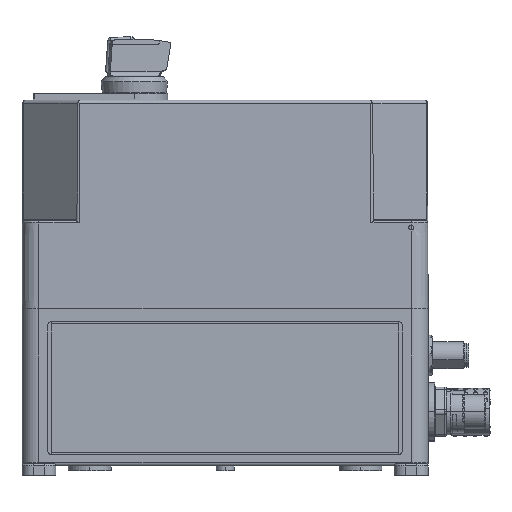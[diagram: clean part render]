
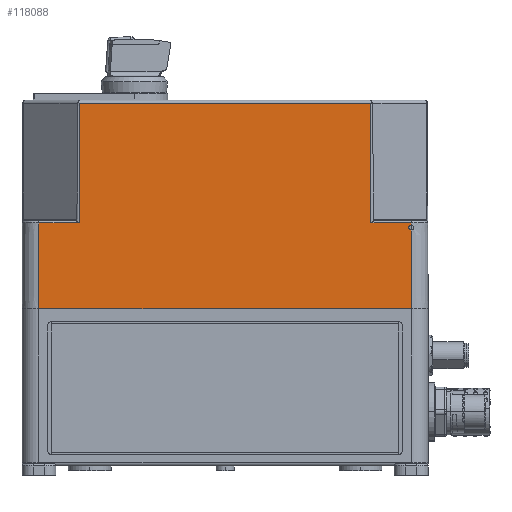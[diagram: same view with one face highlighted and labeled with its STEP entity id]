
A CAD part, left-side view. The second image highlights one B-rep face of the part: STEP entity #118088.
In plain terms, the highlighted planar face has unit normal (-1, 0, 0.004).
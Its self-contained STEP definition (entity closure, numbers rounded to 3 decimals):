
#3092 = ORIENTED_EDGE ( 'NONE', *, *, #35563, .T. ) ;
#6492 = CARTESIAN_POINT ( 'NONE',  ( -54.87, -82.5, 37.1 ) ) ;
#6633 = EDGE_CURVE ( 'NONE', #142684, #98187, #108331, .T. ) ;
#7681 = EDGE_LOOP ( 'NONE', ( #38494, #61272, #3092, #60594, #129747, #141421, #8235, #140771, #134570, #111972 ) ) ;
#8235 = ORIENTED_EDGE ( 'NONE', *, *, #79306, .F. ) ;
#9811 = DIRECTION ( 'NONE',  ( 0., 1., 0. ) ) ;
#10606 = DIRECTION ( 'NONE',  ( -0.003, 0., -1. ) ) ;
#11677 = CARTESIAN_POINT ( 'NONE',  ( -54.87, -80.3, 37.1 ) ) ;
#12407 = CARTESIAN_POINT ( 'NONE',  ( -54.87, -82.5, 37.1 ) ) ;
#15712 = VERTEX_POINT ( 'NONE', #54192 ) ;
#16085 = LINE ( 'NONE', #74334, #82226 ) ;
#16648 = CARTESIAN_POINT ( 'NONE',  ( -55., -82.5, 0. ) ) ;
#16997 = VECTOR ( 'NONE', #38726, 1000. ) ;
#17526 = CARTESIAN_POINT ( 'NONE',  ( -55., 55., 0. ) ) ;
#20076 = VECTOR ( 'NONE', #115028, 1000. ) ;
#22350 = VERTEX_POINT ( 'NONE', #130389 ) ;
#27229 = CARTESIAN_POINT ( 'NONE',  ( -55., 82.5, 0. ) ) ;
#28126 =( BOUNDED_CURVE ( )  B_SPLINE_CURVE ( 3, ( #59530, #37384, #11677, #12407 ),
 .UNSPECIFIED., .F., .F. ) 
 B_SPLINE_CURVE_WITH_KNOTS ( ( 4, 4 ),
 ( 0., 3.142 ),
 .UNSPECIFIED. ) 
 CURVE ( )  GEOMETRIC_REPRESENTATION_ITEM ( )  RATIONAL_B_SPLINE_CURVE ( ( 1., 0.333, 0.333, 1. ) ) 
 REPRESENTATION_ITEM ( '' )  );
#29330 = DIRECTION ( 'NONE',  ( 0.003, 0., 1. ) ) ;
#29916 = VERTEX_POINT ( 'NONE', #6492 ) ;
#30702 = VERTEX_POINT ( 'NONE', #95544 ) ;
#35421 = VECTOR ( 'NONE', #52842, 1000. ) ;
#35563 = EDGE_CURVE ( 'NONE', #68759, #29916, #28126, .T. ) ;
#36346 = DIRECTION ( 'NONE',  ( 0.003, 0., 1. ) ) ;
#37384 = CARTESIAN_POINT ( 'NONE',  ( -54.878, -80.3, 34.9 ) ) ;
#38494 = ORIENTED_EDGE ( 'NONE', *, *, #6633, .T. ) ;
#38726 = DIRECTION ( 'NONE',  ( 0.003, 0., 1. ) ) ;
#45560 = VERTEX_POINT ( 'NONE', #98057 ) ;
#47487 = EDGE_CURVE ( 'NONE', #30702, #141433, #113288, .T. ) ;
#49305 = VECTOR ( 'NONE', #36346, 1000. ) ;
#49806 = CARTESIAN_POINT ( 'NONE',  ( -54.682, 150., 91.005 ) ) ;
#51310 = FACE_OUTER_BOUND ( 'NONE', #7681, .T. ) ;
#52842 = DIRECTION ( 'NONE',  ( 0., -1., 0. ) ) ;
#54192 = CARTESIAN_POINT ( 'NONE',  ( -54.682, 64.677, 91.005 ) ) ;
#59530 = CARTESIAN_POINT ( 'NONE',  ( -54.878, -82.5, 34.9 ) ) ;
#60594 = ORIENTED_EDGE ( 'NONE', *, *, #92926, .T. ) ;
#61120 = LINE ( 'NONE', #27229, #92122 ) ;
#61272 = ORIENTED_EDGE ( 'NONE', *, *, #127488, .T. ) ;
#65341 = DIRECTION ( 'NONE',  ( 0.003, 0., 1. ) ) ;
#66676 = LINE ( 'NONE', #77031, #74254 ) ;
#66696 = EDGE_CURVE ( 'NONE', #45560, #94378, #127677, .T. ) ;
#68759 = VERTEX_POINT ( 'NONE', #117231 ) ;
#71333 = CARTESIAN_POINT ( 'NONE',  ( -54.867, 55., 38.003 ) ) ;
#72215 = DIRECTION ( 'NONE',  ( -0.003, 0., -1. ) ) ;
#74254 = VECTOR ( 'NONE', #10606, 1000. ) ;
#74334 = CARTESIAN_POINT ( 'NONE',  ( -55., -82.5, 0. ) ) ;
#75519 = CARTESIAN_POINT ( 'NONE',  ( -54.867, 55., 38.003 ) ) ;
#77031 = CARTESIAN_POINT ( 'NONE',  ( -55., 64.677, 0. ) ) ;
#79306 = EDGE_CURVE ( 'NONE', #15712, #141433, #142398, .T. ) ;
#79501 = CARTESIAN_POINT ( 'NONE',  ( -54.682, -64.677, 91.005 ) ) ;
#82226 = VECTOR ( 'NONE', #29330, 1000. ) ;
#92122 = VECTOR ( 'NONE', #72215, 1000. ) ;
#92926 = EDGE_CURVE ( 'NONE', #29916, #22350, #93504, .T. ) ;
#93283 = CARTESIAN_POINT ( 'NONE',  ( -55., 82.5, 0. ) ) ;
#93504 = LINE ( 'NONE', #16648, #16997 ) ;
#93603 = PLANE ( 'NONE',  #108953 ) ;
#94285 = CARTESIAN_POINT ( 'NONE',  ( -55., -82.5, 0. ) ) ;
#94378 = VERTEX_POINT ( 'NONE', #100094 ) ;
#95544 = CARTESIAN_POINT ( 'NONE',  ( -54.867, -64.677, 38.003 ) ) ;
#97017 = LINE ( 'NONE', #75519, #111996 ) ;
#98057 = CARTESIAN_POINT ( 'NONE',  ( -54.867, 64.677, 38.003 ) ) ;
#98187 = VERTEX_POINT ( 'NONE', #94285 ) ;
#98658 = DIRECTION ( 'NONE',  ( -1., 0., 0.003 ) ) ;
#100094 = CARTESIAN_POINT ( 'NONE',  ( -54.867, 82.5, 38.003 ) ) ;
#106252 = EDGE_CURVE ( 'NONE', #22350, #30702, #97017, .T. ) ;
#106778 = DIRECTION ( 'NONE',  ( 0., -1., 0. ) ) ;
#108331 = LINE ( 'NONE', #17526, #35421 ) ;
#108953 = AXIS2_PLACEMENT_3D ( 'NONE', #133556, #98658, #65341 ) ;
#111972 = ORIENTED_EDGE ( 'NONE', *, *, #115474, .T. ) ;
#111996 = VECTOR ( 'NONE', #9811, 1000. ) ;
#113288 = LINE ( 'NONE', #125232, #49305 ) ;
#115028 = DIRECTION ( 'NONE',  ( 0., 1., 0. ) ) ;
#115474 = EDGE_CURVE ( 'NONE', #94378, #142684, #61120, .T. ) ;
#117231 = CARTESIAN_POINT ( 'NONE',  ( -54.878, -82.5, 34.9 ) ) ;
#118088 = ADVANCED_FACE ( 'NONE', ( #51310 ), #93603, .T. ) ;
#125232 = CARTESIAN_POINT ( 'NONE',  ( -55., -64.677, 0. ) ) ;
#127488 = EDGE_CURVE ( 'NONE', #98187, #68759, #16085, .T. ) ;
#127677 = LINE ( 'NONE', #71333, #20076 ) ;
#129333 = VECTOR ( 'NONE', #106778, 1000. ) ;
#129747 = ORIENTED_EDGE ( 'NONE', *, *, #106252, .T. ) ;
#130389 = CARTESIAN_POINT ( 'NONE',  ( -54.867, -82.5, 38.003 ) ) ;
#133556 = CARTESIAN_POINT ( 'NONE',  ( -55., 55., 0. ) ) ;
#134570 = ORIENTED_EDGE ( 'NONE', *, *, #66696, .T. ) ;
#137966 = EDGE_CURVE ( 'NONE', #15712, #45560, #66676, .T. ) ;
#140771 = ORIENTED_EDGE ( 'NONE', *, *, #137966, .T. ) ;
#141421 = ORIENTED_EDGE ( 'NONE', *, *, #47487, .T. ) ;
#141433 = VERTEX_POINT ( 'NONE', #79501 ) ;
#142398 = LINE ( 'NONE', #49806, #129333 ) ;
#142684 = VERTEX_POINT ( 'NONE', #93283 ) ;
